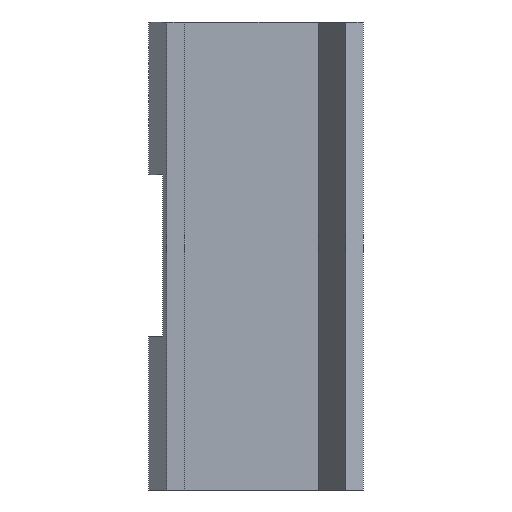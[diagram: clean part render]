
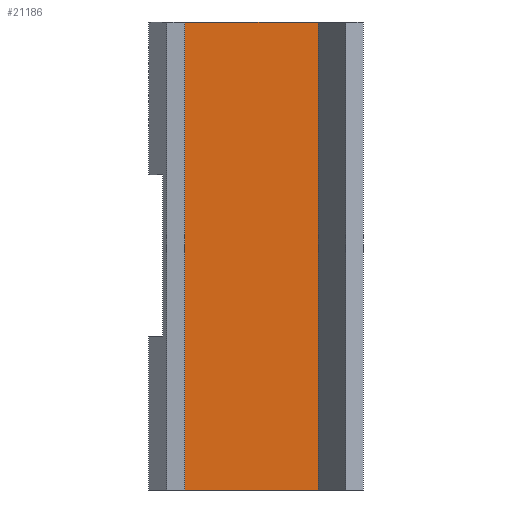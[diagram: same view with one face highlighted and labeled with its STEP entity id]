
A CAD part, left-side view. The second image highlights one B-rep face of the part: STEP entity #21186.
In plain terms, the highlighted planar face has unit normal (-1, 0, 0).
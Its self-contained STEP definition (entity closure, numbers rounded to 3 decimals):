
#72 = PLANE('',#73);
#73 = AXIS2_PLACEMENT_3D('',#74,#75,#76);
#74 = CARTESIAN_POINT('',(66.725,-33.958,26.));
#75 = DIRECTION('',(-0.,-0.,-1.));
#76 = DIRECTION('',(-1.,0.,0.));
#126 = PLANE('',#127);
#127 = AXIS2_PLACEMENT_3D('',#128,#129,#130);
#128 = CARTESIAN_POINT('',(66.725,-33.958,-26.));
#129 = DIRECTION('',(-0.,-0.,-1.));
#130 = DIRECTION('',(-1.,0.,0.));
#627 = VERTEX_POINT('',#628);
#628 = CARTESIAN_POINT('',(50.,-44.019,-26.));
#642 = PLANE('',#643);
#643 = AXIS2_PLACEMENT_3D('',#644,#645,#646);
#644 = CARTESIAN_POINT('',(50.,-44.021,-26.));
#645 = DIRECTION('',(-0.999,0.05,0.));
#646 = DIRECTION('',(0.05,0.999,0.));
#654 = EDGE_CURVE('',#627,#655,#657,.T.);
#655 = VERTEX_POINT('',#656);
#656 = CARTESIAN_POINT('',(50.,-28.839,-26.));
#657 = SURFACE_CURVE('',#658,(#662,#669),.PCURVE_S1.);
#658 = LINE('',#659,#660);
#659 = CARTESIAN_POINT('',(50.,-44.019,-26.));
#660 = VECTOR('',#661,1.);
#661 = DIRECTION('',(0.,1.,0.));
#662 = PCURVE('',#126,#663);
#663 = DEFINITIONAL_REPRESENTATION('',(#664),#668);
#664 = LINE('',#665,#666);
#665 = CARTESIAN_POINT('',(16.725,-10.061));
#666 = VECTOR('',#667,1.);
#667 = DIRECTION('',(0.,1.));
#668 = ( GEOMETRIC_REPRESENTATION_CONTEXT(2) 
PARAMETRIC_REPRESENTATION_CONTEXT() REPRESENTATION_CONTEXT('2D SPACE',''
  ) );
#669 = PCURVE('',#670,#675);
#670 = PLANE('',#671);
#671 = AXIS2_PLACEMENT_3D('',#672,#673,#674);
#672 = CARTESIAN_POINT('',(50.,-44.019,-26.));
#673 = DIRECTION('',(-1.,0.,0.));
#674 = DIRECTION('',(0.,1.,0.));
#675 = DEFINITIONAL_REPRESENTATION('',(#676),#680);
#676 = LINE('',#677,#678);
#677 = CARTESIAN_POINT('',(0.,0.));
#678 = VECTOR('',#679,1.);
#679 = DIRECTION('',(1.,0.));
#680 = ( GEOMETRIC_REPRESENTATION_CONTEXT(2) 
PARAMETRIC_REPRESENTATION_CONTEXT() REPRESENTATION_CONTEXT('2D SPACE',''
  ) );
#698 = PLANE('',#699);
#699 = AXIS2_PLACEMENT_3D('',#700,#701,#702);
#700 = CARTESIAN_POINT('',(50.,-28.839,-26.));
#701 = DIRECTION('',(-0.999,-0.05,0.));
#702 = DIRECTION('',(-0.05,0.999,0.));
#10698 = VERTEX_POINT('',#10699);
#10699 = CARTESIAN_POINT('',(50.,-44.019,26.));
#10720 = EDGE_CURVE('',#10698,#10721,#10723,.T.);
#10721 = VERTEX_POINT('',#10722);
#10722 = CARTESIAN_POINT('',(50.,-28.839,26.));
#10723 = SURFACE_CURVE('',#10724,(#10728,#10735),.PCURVE_S1.);
#10724 = LINE('',#10725,#10726);
#10725 = CARTESIAN_POINT('',(50.,-44.019,26.));
#10726 = VECTOR('',#10727,1.);
#10727 = DIRECTION('',(0.,1.,0.));
#10728 = PCURVE('',#72,#10729);
#10729 = DEFINITIONAL_REPRESENTATION('',(#10730),#10734);
#10730 = LINE('',#10731,#10732);
#10731 = CARTESIAN_POINT('',(16.725,-10.061));
#10732 = VECTOR('',#10733,1.);
#10733 = DIRECTION('',(0.,1.));
#10734 = ( GEOMETRIC_REPRESENTATION_CONTEXT(2) 
PARAMETRIC_REPRESENTATION_CONTEXT() REPRESENTATION_CONTEXT('2D SPACE',''
  ) );
#10735 = PCURVE('',#670,#10736);
#10736 = DEFINITIONAL_REPRESENTATION('',(#10737),#10741);
#10737 = LINE('',#10738,#10739);
#10738 = CARTESIAN_POINT('',(0.,-52.));
#10739 = VECTOR('',#10740,1.);
#10740 = DIRECTION('',(1.,0.));
#10741 = ( GEOMETRIC_REPRESENTATION_CONTEXT(2) 
PARAMETRIC_REPRESENTATION_CONTEXT() REPRESENTATION_CONTEXT('2D SPACE',''
  ) );
#21118 = EDGE_CURVE('',#627,#10698,#21119,.T.);
#21119 = SURFACE_CURVE('',#21120,(#21124,#21131),.PCURVE_S1.);
#21120 = LINE('',#21121,#21122);
#21121 = CARTESIAN_POINT('',(50.,-44.019,-26.));
#21122 = VECTOR('',#21123,1.);
#21123 = DIRECTION('',(0.,0.,1.));
#21124 = PCURVE('',#642,#21125);
#21125 = DEFINITIONAL_REPRESENTATION('',(#21126),#21130);
#21126 = LINE('',#21127,#21128);
#21127 = CARTESIAN_POINT('',(0.002,0.));
#21128 = VECTOR('',#21129,1.);
#21129 = DIRECTION('',(0.,-1.));
#21130 = ( GEOMETRIC_REPRESENTATION_CONTEXT(2) 
PARAMETRIC_REPRESENTATION_CONTEXT() REPRESENTATION_CONTEXT('2D SPACE',''
  ) );
#21131 = PCURVE('',#670,#21132);
#21132 = DEFINITIONAL_REPRESENTATION('',(#21133),#21137);
#21133 = LINE('',#21134,#21135);
#21134 = CARTESIAN_POINT('',(0.,0.));
#21135 = VECTOR('',#21136,1.);
#21136 = DIRECTION('',(0.,-1.));
#21137 = ( GEOMETRIC_REPRESENTATION_CONTEXT(2) 
PARAMETRIC_REPRESENTATION_CONTEXT() REPRESENTATION_CONTEXT('2D SPACE',''
  ) );
#21186 = ADVANCED_FACE('',(#21187),#670,.T.);
#21187 = FACE_BOUND('',#21188,.T.);
#21188 = EDGE_LOOP('',(#21189,#21190,#21191,#21212));
#21189 = ORIENTED_EDGE('',*,*,#21118,.T.);
#21190 = ORIENTED_EDGE('',*,*,#10720,.T.);
#21191 = ORIENTED_EDGE('',*,*,#21192,.F.);
#21192 = EDGE_CURVE('',#655,#10721,#21193,.T.);
#21193 = SURFACE_CURVE('',#21194,(#21198,#21205),.PCURVE_S1.);
#21194 = LINE('',#21195,#21196);
#21195 = CARTESIAN_POINT('',(50.,-28.839,-26.));
#21196 = VECTOR('',#21197,1.);
#21197 = DIRECTION('',(0.,0.,1.));
#21198 = PCURVE('',#670,#21199);
#21199 = DEFINITIONAL_REPRESENTATION('',(#21200),#21204);
#21200 = LINE('',#21201,#21202);
#21201 = CARTESIAN_POINT('',(15.18,0.));
#21202 = VECTOR('',#21203,1.);
#21203 = DIRECTION('',(0.,-1.));
#21204 = ( GEOMETRIC_REPRESENTATION_CONTEXT(2) 
PARAMETRIC_REPRESENTATION_CONTEXT() REPRESENTATION_CONTEXT('2D SPACE',''
  ) );
#21205 = PCURVE('',#698,#21206);
#21206 = DEFINITIONAL_REPRESENTATION('',(#21207),#21211);
#21207 = LINE('',#21208,#21209);
#21208 = CARTESIAN_POINT('',(0.,0.));
#21209 = VECTOR('',#21210,1.);
#21210 = DIRECTION('',(0.,-1.));
#21211 = ( GEOMETRIC_REPRESENTATION_CONTEXT(2) 
PARAMETRIC_REPRESENTATION_CONTEXT() REPRESENTATION_CONTEXT('2D SPACE',''
  ) );
#21212 = ORIENTED_EDGE('',*,*,#654,.F.);
